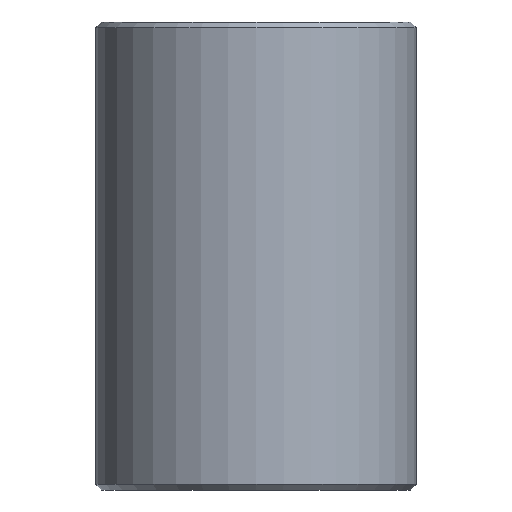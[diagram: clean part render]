
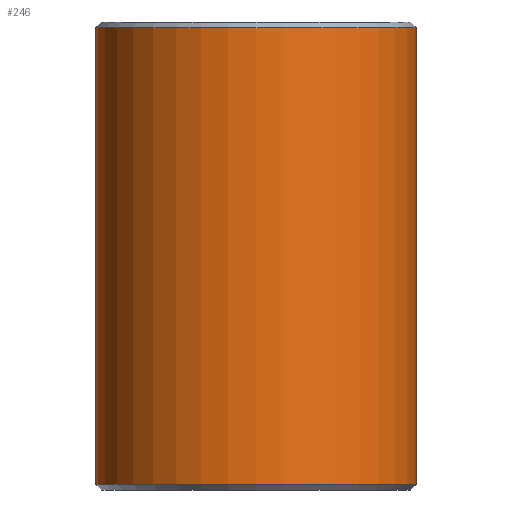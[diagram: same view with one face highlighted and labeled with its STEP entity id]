
A CAD part, front view. The second image highlights one B-rep face of the part: STEP entity #246.
In plain terms, the highlighted cylindrical face has radius 21.69 mm (diameter 43.38 mm), a full revolution.
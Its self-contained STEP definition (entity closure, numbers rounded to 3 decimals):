
#74 = CONICAL_SURFACE('',#75,21.69,0.785);
#75 = AXIS2_PLACEMENT_3D('',#76,#77,#78);
#76 = CARTESIAN_POINT('',(0.,0.,0.8));
#77 = DIRECTION('',(0.,-0.,1.));
#78 = DIRECTION('',(1.,0.,0.));
#143 = VERTEX_POINT('',#144);
#144 = CARTESIAN_POINT('',(21.69,0.,0.8));
#165 = EDGE_CURVE('',#143,#143,#166,.T.);
#166 = SURFACE_CURVE('',#167,(#172,#179),.PCURVE_S1.);
#167 = CIRCLE('',#168,21.69);
#168 = AXIS2_PLACEMENT_3D('',#169,#170,#171);
#169 = CARTESIAN_POINT('',(0.,0.,0.8));
#170 = DIRECTION('',(0.,-0.,1.));
#171 = DIRECTION('',(1.,0.,0.));
#172 = PCURVE('',#74,#173);
#173 = DEFINITIONAL_REPRESENTATION('',(#174),#178);
#174 = LINE('',#175,#176);
#175 = CARTESIAN_POINT('',(0.,0.));
#176 = VECTOR('',#177,1.);
#177 = DIRECTION('',(1.,0.));
#178 = ( GEOMETRIC_REPRESENTATION_CONTEXT(2) 
PARAMETRIC_REPRESENTATION_CONTEXT() REPRESENTATION_CONTEXT('2D SPACE',''
  ) );
#179 = PCURVE('',#180,#185);
#180 = CYLINDRICAL_SURFACE('',#181,21.69);
#181 = AXIS2_PLACEMENT_3D('',#182,#183,#184);
#182 = CARTESIAN_POINT('',(0.,0.,0.));
#183 = DIRECTION('',(0.,0.,1.));
#184 = DIRECTION('',(1.,0.,-0.));
#185 = DEFINITIONAL_REPRESENTATION('',(#186),#190);
#186 = LINE('',#187,#188);
#187 = CARTESIAN_POINT('',(0.,0.8));
#188 = VECTOR('',#189,1.);
#189 = DIRECTION('',(1.,0.));
#190 = ( GEOMETRIC_REPRESENTATION_CONTEXT(2) 
PARAMETRIC_REPRESENTATION_CONTEXT() REPRESENTATION_CONTEXT('2D SPACE',''
  ) );
#246 = ADVANCED_FACE('',(#247),#180,.T.);
#247 = FACE_BOUND('',#248,.T.);
#248 = EDGE_LOOP('',(#249,#272,#273,#274));
#249 = ORIENTED_EDGE('',*,*,#250,.F.);
#250 = EDGE_CURVE('',#143,#251,#253,.T.);
#251 = VERTEX_POINT('',#252);
#252 = CARTESIAN_POINT('',(21.69,0.,62.5));
#253 = SEAM_CURVE('',#254,(#258,#265),.PCURVE_S1.);
#254 = LINE('',#255,#256);
#255 = CARTESIAN_POINT('',(21.69,0.,0.));
#256 = VECTOR('',#257,1.);
#257 = DIRECTION('',(0.,0.,1.));
#258 = PCURVE('',#180,#259);
#259 = DEFINITIONAL_REPRESENTATION('',(#260),#264);
#260 = LINE('',#261,#262);
#261 = CARTESIAN_POINT('',(0.,0.));
#262 = VECTOR('',#263,1.);
#263 = DIRECTION('',(0.,1.));
#264 = ( GEOMETRIC_REPRESENTATION_CONTEXT(2) 
PARAMETRIC_REPRESENTATION_CONTEXT() REPRESENTATION_CONTEXT('2D SPACE',''
  ) );
#265 = PCURVE('',#180,#266);
#266 = DEFINITIONAL_REPRESENTATION('',(#267),#271);
#267 = LINE('',#268,#269);
#268 = CARTESIAN_POINT('',(6.283,0.));
#269 = VECTOR('',#270,1.);
#270 = DIRECTION('',(0.,1.));
#271 = ( GEOMETRIC_REPRESENTATION_CONTEXT(2) 
PARAMETRIC_REPRESENTATION_CONTEXT() REPRESENTATION_CONTEXT('2D SPACE',''
  ) );
#272 = ORIENTED_EDGE('',*,*,#165,.T.);
#273 = ORIENTED_EDGE('',*,*,#250,.T.);
#274 = ORIENTED_EDGE('',*,*,#275,.F.);
#275 = EDGE_CURVE('',#251,#251,#276,.T.);
#276 = SURFACE_CURVE('',#277,(#282,#289),.PCURVE_S1.);
#277 = CIRCLE('',#278,21.69);
#278 = AXIS2_PLACEMENT_3D('',#279,#280,#281);
#279 = CARTESIAN_POINT('',(0.,0.,62.5));
#280 = DIRECTION('',(0.,0.,1.));
#281 = DIRECTION('',(1.,0.,-0.));
#282 = PCURVE('',#180,#283);
#283 = DEFINITIONAL_REPRESENTATION('',(#284),#288);
#284 = LINE('',#285,#286);
#285 = CARTESIAN_POINT('',(0.,62.5));
#286 = VECTOR('',#287,1.);
#287 = DIRECTION('',(1.,0.));
#288 = ( GEOMETRIC_REPRESENTATION_CONTEXT(2) 
PARAMETRIC_REPRESENTATION_CONTEXT() REPRESENTATION_CONTEXT('2D SPACE',''
  ) );
#289 = PCURVE('',#290,#295);
#290 = CONICAL_SURFACE('',#291,21.69,0.785);
#291 = AXIS2_PLACEMENT_3D('',#292,#293,#294);
#292 = CARTESIAN_POINT('',(0.,0.,62.5));
#293 = DIRECTION('',(-0.,-0.,-1.));
#294 = DIRECTION('',(1.,0.,0.));
#295 = DEFINITIONAL_REPRESENTATION('',(#296),#300);
#296 = LINE('',#297,#298);
#297 = CARTESIAN_POINT('',(-0.,-0.));
#298 = VECTOR('',#299,1.);
#299 = DIRECTION('',(-1.,-0.));
#300 = ( GEOMETRIC_REPRESENTATION_CONTEXT(2) 
PARAMETRIC_REPRESENTATION_CONTEXT() REPRESENTATION_CONTEXT('2D SPACE',''
  ) );
